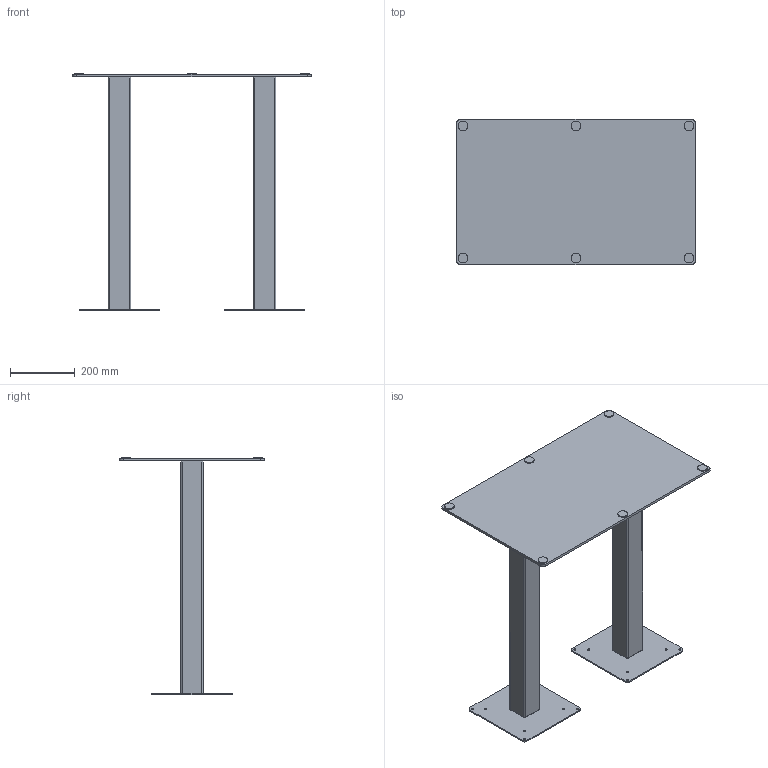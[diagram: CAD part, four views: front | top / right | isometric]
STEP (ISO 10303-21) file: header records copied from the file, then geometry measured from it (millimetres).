
FILE_DESCRIPTION (( 'STEP AP203' ), '1' );
FILE_NAME ('STRONG Centrální stolová noha dvojitá ST 8745-8_349245 a 349276_3D.STEP', '2022-02-23T07:52:09', ( '' ), ( '' ), 'SwSTEP 2.0', 'SolidWorks 2019', '' );
FILE_SCHEMA (( 'CONFIG_CONTROL_DESIGN' ));
Length unit declared in the file: millimetre
Products named in the file (1): STRONG Centrální stolová noha dvojitá ST 8745-8_349245 a 349276_3D
Bounding box: 740 x 450 x 735 mm (x, y, z)
Volume: 3748871.1 mm3; surface area: 1712168.8 mm2
Topology: 3 solids, 3 shells, 116 faces, 300 edges, 200 vertices
Faces by surface type: cylinder 72, plane 44
Entity records: 3745 total; most frequent: DIRECTION 678, CARTESIAN_POINT 617, ORIENTED_EDGE 600, EDGE_CURVE 300, AXIS2_PLACEMENT_3D 261, VERTEX_POINT 200, EDGE_LOOP 158, VECTOR 156
